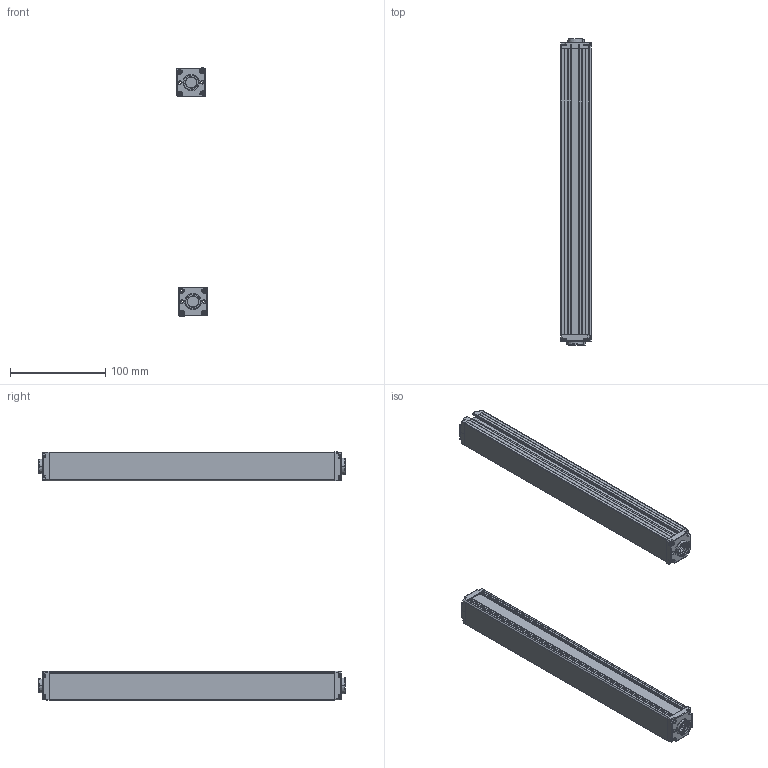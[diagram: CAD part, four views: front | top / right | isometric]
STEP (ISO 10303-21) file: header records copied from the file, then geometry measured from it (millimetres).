
FILE_DESCRIPTION (( 'STEP AP203' ), '1' );
FILE_NAME ('ZDA2810-300.STEP', '2022-08-30T03:41:06', ( 'Windows 蚚誧' ), ( 'Organization' ), 'SwSTEP 2.0', 'SolidWorks 2020', '' );
FILE_SCHEMA (( 'CONFIG_CONTROL_DESIGN' ));
Length unit declared in the file: millimetre
Products named in the file (5): 錨璃1; 錨璃8; 錨璃8 - 萵掛 (2); 錨璃10; ZDA2810-300
Assembly tree (8 placements, depth 2):
  ZDA2810-300
    錨璃1  x2
    錨璃8  x2
    錨璃8 - 萵掛 (2)  x2
    錨璃10  x2
Bounding box: 32.36 x 321.4 x 260.35 mm (x, y, z)
Volume: 198648.8 mm3; surface area: 212515.8 mm2
Topology: 8 solids, 8 shells, 1032 faces, 2690 edges, 1668 vertices
Faces by surface type: plane 464, cylinder 310, cone 120, bspline 58, torus 48, sphere 32
Entity records: 17901 total; most frequent: CARTESIAN_POINT 4731, ORIENTED_EDGE 2666, DIRECTION 2616, EDGE_CURVE 1333, AXIS2_PLACEMENT_3D 894, VERTEX_POINT 834, LINE 828, VECTOR 828
